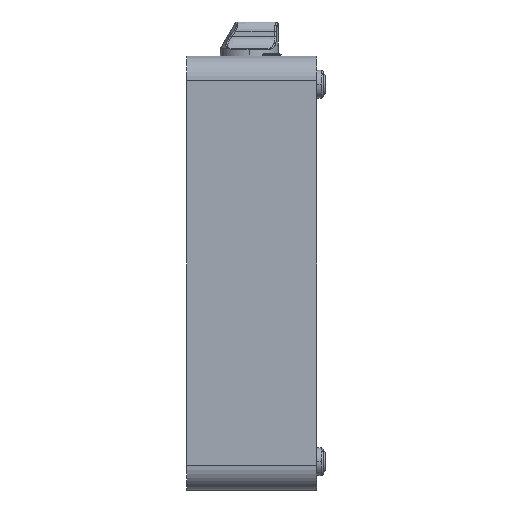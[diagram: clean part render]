
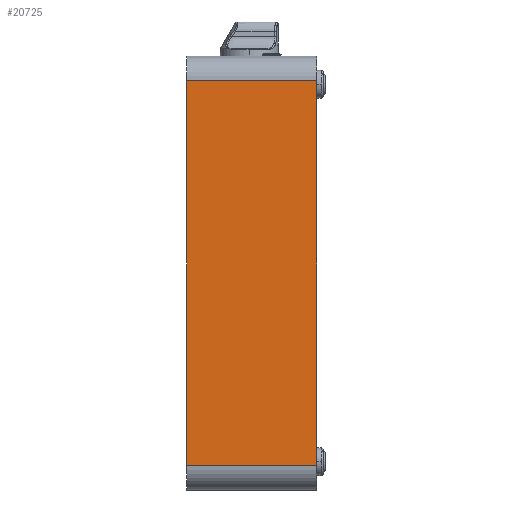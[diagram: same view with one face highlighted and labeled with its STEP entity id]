
A CAD part, left-side view. The second image highlights one B-rep face of the part: STEP entity #20725.
In plain terms, the highlighted planar face has unit normal (-1, 0, 0).
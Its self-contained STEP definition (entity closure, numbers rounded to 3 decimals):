
#7081 = DIRECTION ( 'NONE',  ( 0., 0., 1. ) ) ;
#7082 = DIRECTION ( 'NONE',  ( -1., 0., 0. ) ) ;
#7083 = CARTESIAN_POINT ( 'NONE',  ( -180., -647.754, -368. ) ) ;
#7084 = PLANE ( 'NONE',  #32669 ) ;
#7344 = CARTESIAN_POINT ( 'NONE',  ( -180., -117., -22. ) ) ;
#7350 = CARTESIAN_POINT ( 'NONE',  ( -180., 0., -368. ) ) ;
#7394 = CARTESIAN_POINT ( 'NONE',  ( -180., 0., -22. ) ) ;
#7437 = CARTESIAN_POINT ( 'NONE',  ( -180., -117., -368. ) ) ;
#8059 = VERTEX_POINT ( 'NONE', #7437 ) ;
#8099 = VERTEX_POINT ( 'NONE', #7394 ) ;
#8138 = VERTEX_POINT ( 'NONE', #7350 ) ;
#8143 = VERTEX_POINT ( 'NONE', #7344 ) ;
#20725 = ADVANCED_FACE ( 'NONE', ( #32682 ), #7084, .T. ) ;
#21107 = EDGE_CURVE ( 'NONE', #8059, #8143, #21679, .T. ) ;
#21113 = EDGE_CURVE ( 'NONE', #8143, #8099, #21565, .T. ) ;
#21132 = EDGE_CURVE ( 'NONE', #8138, #8059, #21492, .T. ) ;
#21134 = EDGE_CURVE ( 'NONE', #8138, #8099, #21487, .T. ) ;
#21486 = CARTESIAN_POINT ( 'NONE',  ( -180., 0., -22. ) ) ;
#21487 = LINE ( 'NONE', #21486, #31556 ) ;
#21490 = DIRECTION ( 'NONE',  ( 0., -1., 0. ) ) ;
#21491 = CARTESIAN_POINT ( 'NONE',  ( -180., -647.754, -368. ) ) ;
#21492 = LINE ( 'NONE', #21491, #31559 ) ;
#21503 = DIRECTION ( 'NONE',  ( 0., 0., 1. ) ) ;
#21563 = DIRECTION ( 'NONE',  ( 0., 1., 0. ) ) ;
#21564 = CARTESIAN_POINT ( 'NONE',  ( -180., -647.754, -22. ) ) ;
#21565 = LINE ( 'NONE', #21564, #31602 ) ;
#21677 = DIRECTION ( 'NONE',  ( 0., 0., 1. ) ) ;
#21678 = CARTESIAN_POINT ( 'NONE',  ( -180., -117., -368. ) ) ;
#21679 = LINE ( 'NONE', #21678, #31613 ) ;
#30125 = EDGE_LOOP ( 'NONE', ( #32924, #32923, #32926, #32920 ) ) ;
#31556 = VECTOR ( 'NONE', #21503, 1000. ) ;
#31559 = VECTOR ( 'NONE', #21490, 1000. ) ;
#31602 = VECTOR ( 'NONE', #21563, 1000. ) ;
#31613 = VECTOR ( 'NONE', #21677, 1000. ) ;
#32669 = AXIS2_PLACEMENT_3D ( 'NONE', #7083, #7082, #7081 ) ;
#32682 = FACE_OUTER_BOUND ( 'NONE', #30125, .T. ) ;
#32920 = ORIENTED_EDGE ( 'NONE', *, *, #21107, .T. ) ;
#32923 = ORIENTED_EDGE ( 'NONE', *, *, #21134, .F. ) ;
#32924 = ORIENTED_EDGE ( 'NONE', *, *, #21113, .T. ) ;
#32926 = ORIENTED_EDGE ( 'NONE', *, *, #21132, .T. ) ;
